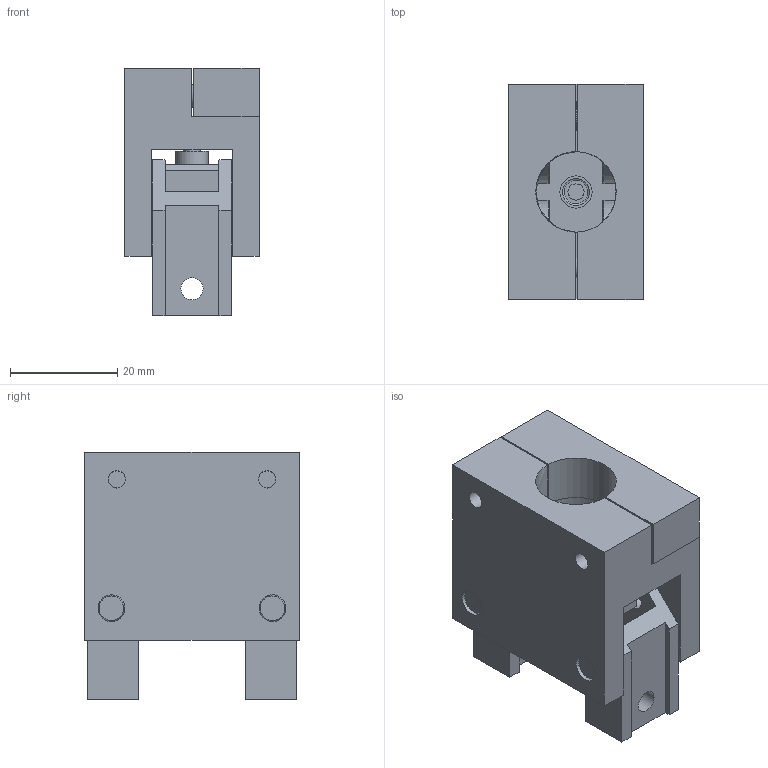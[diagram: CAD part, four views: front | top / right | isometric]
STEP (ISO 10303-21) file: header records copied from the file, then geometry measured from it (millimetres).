
FILE_DESCRIPTION((''),'2;1');
FILE_NAME('C:\Test\stp\3000014-1.stp','2006-04-11T12:59:56',('is'),(''),'Autodesk Inventor 10','Autodesk Inventor 10','');
FILE_SCHEMA(('AUTOMOTIVE_DESIGN { 1 0 10303 214 1 1 1 1 }'));
Length unit declared in the file: millimetre
Products named in the file (1): 3000014-1
Bounding box: 25 x 40 x 46 mm (x, y, z)
Volume: 27866.5 mm3; surface area: 13986.8 mm2
Topology: 1 solids, 4 shells, 251 faces, 676 edges, 424 vertices
Faces by surface type: plane 165, cylinder 43, cone 21, bspline 20, torus 2
Full cylindrical faces by diameter (mm): 3 x3, 4 x5, 6 x1, 7 x3, 10 x4
Entity records: 7858 total; most frequent: CARTESIAN_POINT 1701, DIRECTION 1269, ORIENTED_EDGE 1242, EDGE_CURVE 621, AXIS2_PLACEMENT_3D 436, VERTEX_POINT 405, VECTOR 397, LINE 397
